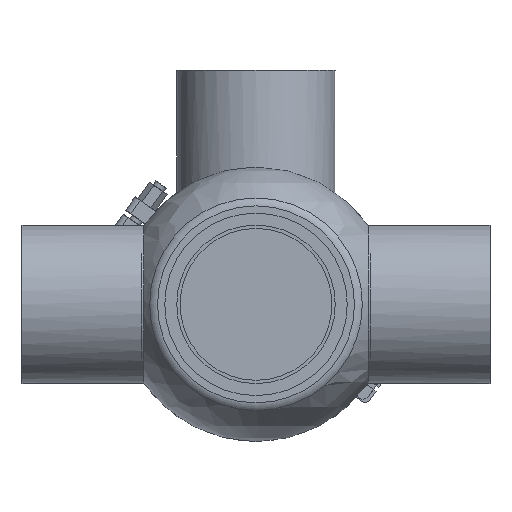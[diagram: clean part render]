
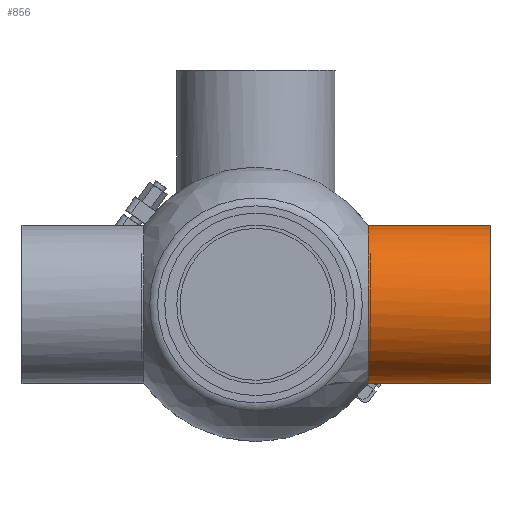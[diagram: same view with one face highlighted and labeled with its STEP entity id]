
A CAD part, front view. The second image highlights one B-rep face of the part: STEP entity #856.
In plain terms, the highlighted cylindrical face has radius 50.8 mm (diameter 101.6 mm), a full revolution.
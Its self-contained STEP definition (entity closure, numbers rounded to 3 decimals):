
#856 = ADVANCED_FACE ( 'NONE', ( #43705, #1586 ), #48429, .T. ) ;
#1586 = FACE_OUTER_BOUND ( 'NONE', #54794, .T. ) ;
#2176 = ORIENTED_EDGE ( 'NONE', *, *, #25358, .T. ) ;
#2708 = CARTESIAN_POINT ( 'NONE',  ( 72.249, 50.799, 2.546 ) ) ;
#3417 = CIRCLE ( 'NONE', #16289, 50.8 ) ;
#4826 = EDGE_CURVE ( 'NONE', #39566, #39566, #3417, .T. ) ;
#5852 = DIRECTION ( 'NONE',  ( 1., 0., 0. ) ) ;
#6697 = DIRECTION ( 'NONE',  ( -1., 0., 0. ) ) ;
#11418 = CARTESIAN_POINT ( 'NONE',  ( 71.987, 50.425, -6.29 ) ) ;
#12290 = CARTESIAN_POINT ( 'NONE',  ( 72.25, 50.801, -1.232 ) ) ;
#13165 = EDGE_LOOP ( 'NONE', ( #2176, #29998 ) ) ;
#16289 = AXIS2_PLACEMENT_3D ( 'NONE', #25267, #6697, #44158 ) ;
#16961 = CARTESIAN_POINT ( 'NONE',  ( 72.086, 50.566, -5.032 ) ) ;
#18189 = CIRCLE ( 'NONE', #46924, 50.8 ) ;
#20033 = CARTESIAN_POINT ( 'NONE',  ( 150., 0., 50.8 ) ) ;
#20767 = DIRECTION ( 'NONE',  ( 0., 0., 1. ) ) ;
#21838 = DIRECTION ( 'NONE',  ( 0., 0., 1. ) ) ;
#24315 = AXIS2_PLACEMENT_3D ( 'NONE', #48719, #29453, #20767 ) ;
#25267 = CARTESIAN_POINT ( 'NONE',  ( 150., 0., 0. ) ) ;
#25358 = EDGE_CURVE ( 'NONE', #33580, #59981, #58136, .T. ) ;
#25937 = CARTESIAN_POINT ( 'NONE',  ( 71.857, 50.239, -7.53 ) ) ;
#27820 = CARTESIAN_POINT ( 'NONE',  ( 71.857, 50.239, 7.53 ) ) ;
#29453 = DIRECTION ( 'NONE',  ( -1., 0., 0. ) ) ;
#29983 = CARTESIAN_POINT ( 'NONE',  ( 72.117, 50.611, 5.047 ) ) ;
#29998 = ORIENTED_EDGE ( 'NONE', *, *, #55218, .T. ) ;
#33580 = VERTEX_POINT ( 'NONE', #48596 ) ;
#39566 = VERTEX_POINT ( 'NONE', #20033 ) ;
#43705 = FACE_OUTER_BOUND ( 'NONE', #13165, .T. ) ;
#44158 = DIRECTION ( 'NONE',  ( 0., 0., 1. ) ) ;
#46924 = AXIS2_PLACEMENT_3D ( 'NONE', #49482, #5852, #21838 ) ;
#47881 = ORIENTED_EDGE ( 'NONE', *, *, #4826, .T. ) ;
#48429 = CYLINDRICAL_SURFACE ( 'NONE', #24315, 50.8 ) ;
#48596 = CARTESIAN_POINT ( 'NONE',  ( 71.857, 50.239, -7.53 ) ) ;
#48719 = CARTESIAN_POINT ( 'NONE',  ( 0., 0., 0. ) ) ;
#48958 = CARTESIAN_POINT ( 'NONE',  ( 71.857, 50.239, 7.53 ) ) ;
#49482 = CARTESIAN_POINT ( 'NONE',  ( 71.857, 0., 0. ) ) ;
#49562 = CARTESIAN_POINT ( 'NONE',  ( 72.218, 50.755, -2.496 ) ) ;
#54794 = EDGE_LOOP ( 'NONE', ( #47881 ) ) ;
#55218 = EDGE_CURVE ( 'NONE', #59981, #33580, #18189, .T. ) ;
#58136 = B_SPLINE_CURVE_WITH_KNOTS ( 'NONE', 3,
 ( #25937, #11418, #16961, #49562, #12290, #2708, #29983, #48958 ),
 .UNSPECIFIED., .F., .F.,
 ( 4, 2, 2, 4 ),
 ( 0.011, 0.015, 0.018, 0.026 ),
 .UNSPECIFIED. ) ;
#59981 = VERTEX_POINT ( 'NONE', #27820 ) ;
